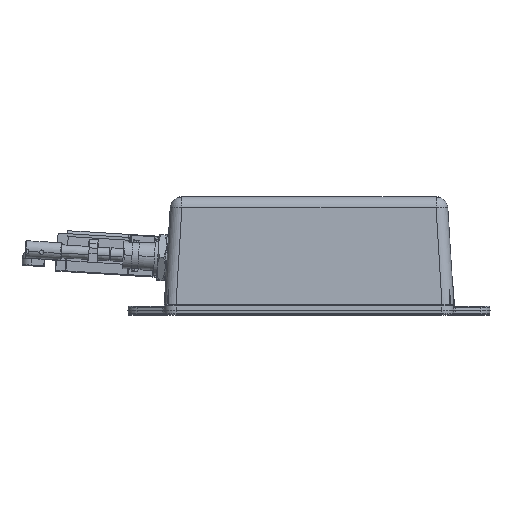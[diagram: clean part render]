
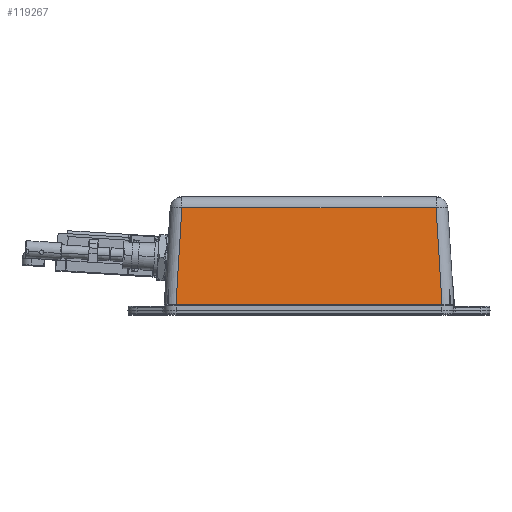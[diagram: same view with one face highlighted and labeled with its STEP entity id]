
A CAD part, top view. The second image highlights one B-rep face of the part: STEP entity #119267.
In plain terms, the highlighted planar face has unit normal (0, 0.061, 0.998).
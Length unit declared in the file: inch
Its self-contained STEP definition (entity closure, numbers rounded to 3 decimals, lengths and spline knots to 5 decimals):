
#1192 = PLANE ( 'NONE',  #36681 ) ;
#4377 = EDGE_CURVE ( 'NONE', #34785, #68676, #46578, .T. ) ;
#5528 = VECTOR ( 'NONE', #43620, 39.37008 ) ;
#5853 = DIRECTION ( 'NONE',  ( -1., 0., 0. ) ) ;
#6092 = CARTESIAN_POINT ( 'NONE',  ( 1.83732, 0.016, 3.07402 ) ) ;
#21830 = DIRECTION ( 'NONE',  ( 0., 0.061, 0.998 ) ) ;
#25369 = CARTESIAN_POINT ( 'NONE',  ( -1.75525, 1.35789, 2.99195 ) ) ;
#28994 = VERTEX_POINT ( 'NONE', #31997 ) ;
#29455 = CARTESIAN_POINT ( 'NONE',  ( -2., 1.35789, 2.99195 ) ) ;
#30468 = EDGE_CURVE ( 'NONE', #88967, #68676, #114741, .T. ) ;
#31606 = EDGE_CURVE ( 'NONE', #28994, #88967, #122637, .T. ) ;
#31997 = CARTESIAN_POINT ( 'NONE',  ( 1.75525, 1.35789, 2.99195 ) ) ;
#34785 = VERTEX_POINT ( 'NONE', #6092 ) ;
#36681 = AXIS2_PLACEMENT_3D ( 'NONE', #72100, #21830, #93628 ) ;
#43315 = VECTOR ( 'NONE', #5853, 39.37008 ) ;
#43620 = DIRECTION ( 'NONE',  ( -0.061, -0.996, 0.061 ) ) ;
#46578 = LINE ( 'NONE', #121705, #43315 ) ;
#64728 = DIRECTION ( 'NONE',  ( -0.061, 0.996, -0.061 ) ) ;
#67517 = LINE ( 'NONE', #126820, #91582 ) ;
#68676 = VERTEX_POINT ( 'NONE', #84492 ) ;
#72100 = CARTESIAN_POINT ( 'NONE',  ( -2., 0., 3.075 ) ) ;
#72187 = ORIENTED_EDGE ( 'NONE', *, *, #4377, .F. ) ;
#74414 = VECTOR ( 'NONE', #110784, 39.37008 ) ;
#79558 = FACE_OUTER_BOUND ( 'NONE', #102421, .T. ) ;
#82786 = ORIENTED_EDGE ( 'NONE', *, *, #30468, .T. ) ;
#84492 = CARTESIAN_POINT ( 'NONE',  ( -1.83732, 0.016, 3.07402 ) ) ;
#88967 = VERTEX_POINT ( 'NONE', #25369 ) ;
#91582 = VECTOR ( 'NONE', #64728, 39.37008 ) ;
#93628 = DIRECTION ( 'NONE',  ( 0., -0.998, 0.061 ) ) ;
#94882 = CARTESIAN_POINT ( 'NONE',  ( -1.8389, -0.00982, 3.0756 ) ) ;
#102421 = EDGE_LOOP ( 'NONE', ( #72187, #108778, #126243, #82786 ) ) ;
#108778 = ORIENTED_EDGE ( 'NONE', *, *, #129787, .T. ) ;
#110784 = DIRECTION ( 'NONE',  ( -1., 0., 0. ) ) ;
#114741 = LINE ( 'NONE', #94882, #5528 ) ;
#119267 = ADVANCED_FACE ( 'NONE', ( #79558 ), #1192, .T. ) ;
#121705 = CARTESIAN_POINT ( 'NONE',  ( -2., 0.016, 3.07402 ) ) ;
#122637 = LINE ( 'NONE', #29455, #74414 ) ;
#126243 = ORIENTED_EDGE ( 'NONE', *, *, #31606, .T. ) ;
#126820 = CARTESIAN_POINT ( 'NONE',  ( 1.82405, 0.23302, 3.06075 ) ) ;
#129787 = EDGE_CURVE ( 'NONE', #34785, #28994, #67517, .T. ) ;
